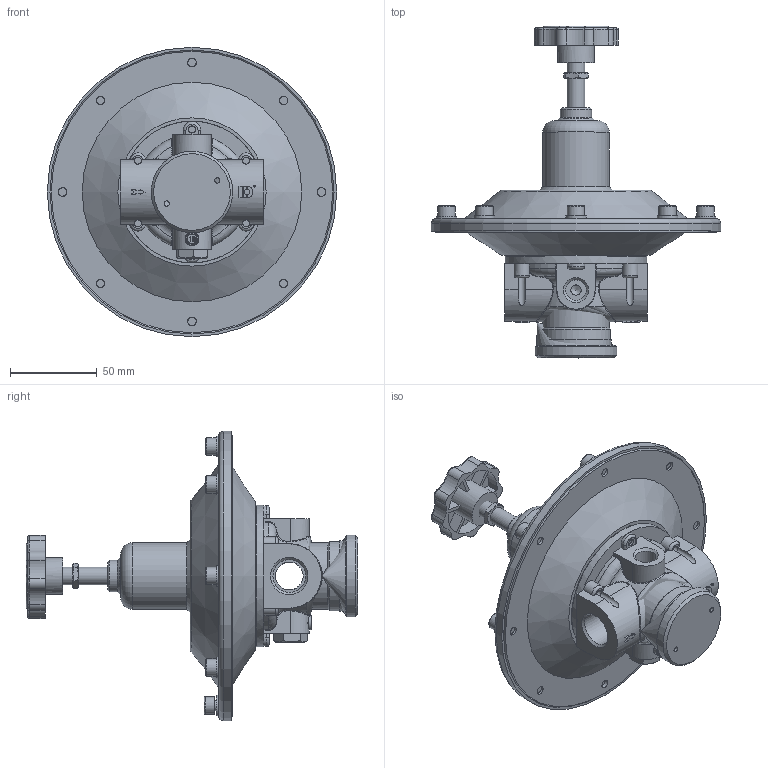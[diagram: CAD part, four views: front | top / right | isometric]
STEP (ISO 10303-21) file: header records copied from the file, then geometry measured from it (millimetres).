
FILE_DESCRIPTION(/* description */ (''),/* implementation_level */ '2;1');
FILE_NAME(/* name */ 'U:/AirCom-Produktdokumentation/Druckregler/R160/Zeichnungen/CAD-Aircom/3D/B-R160-04x_02.step',/* time_stamp */ '2022-02-14T13:35:57+01:00',/* author */ (''),/* organization */ (''),/* preprocessor_version */ 'ST-DEVELOPER v18.1',/* originating_system */ 'Autodesk Translation Framework v10.13.0.1454',/* authorisation */ '');
FILE_SCHEMA (('AUTOMOTIVE_DESIGN { 1 0 10303 214 3 1 1 }'));
Length unit declared in the file: millimetre
Products named in the file (33): C81080; P20701; P64041; C51009; C51009_Saldature; P64042; P21039; P38058; P34237; P23079; P23080; 0DC10405; OR 09082; OR 07103; P34098; OR 07027; OR 02014; OR 02014_1; OR 02014_2; OR 02014_3; OR 02014_4; OR 02014_5; C40004; P40017; P43128; P28080; 0DQ10400; 0DB10307; 0DB10307_1; 0DB10307_2; 0DB10307_3; 0DB10307_4; 0DB10307_5
Assembly tree (46 placements, depth 3):
  C81080
    P20701
    P64041
    C51009
      C51009_Saldature
      P64042
      P21039
      P38058
    P34237
    P23079
    P23080
    0DC10405  x8
    OR 09082
    OR 07103
    P34098
    OR 07027
    OR 02014
    OR 02014_1
    OR 02014_2
    OR 02014_3
    OR 02014_4
    OR 02014_5
    C40004
      P40017
      P43128
      P28080
    0DQ10400  x8
    0DB10307
    0DB10307_1
    0DB10307_2
    0DB10307_3
    0DB10307_4
    0DB10307_5
Bounding box: 166.5 x 191 x 166.5 mm (x, y, z)
Volume: 246458.4 mm3; surface area: 197099 mm2
Topology: 45 solids, 45 shells, 782 faces, 1928 edges, 1242 vertices
Faces by surface type: plane 307, cylinder 261, cone 91, torus 79, bspline 44
Full cylindrical faces by diameter (mm): 0.5 x1, 0.85 x12, 1 x1, 1.2 x1, 3 x2, 4.134 x7, 4.917 x8, 5 x6, 5.5 x7, 6 x10, 6.4 x8, 6.5 x24, 7 x1, 7.2 x1, 7.5 x6, 8 x1, 8.917 x1, 10 x10, 10.5 x1, 11.8 x2, 12 x8, 13.157 x1, 14.9 x1, 15 x1, 16 x2, 18 x2, 18.9 x2, 19.5 x1, 21 x1, 29.694 x1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
Entity records: 25138 total; most frequent: CARTESIAN_POINT 7867, DIRECTION 3470, ORIENTED_EDGE 3262, EDGE_CURVE 1631, AXIS2_PLACEMENT_3D 1452, VERTEX_POINT 1046, EDGE_LOOP 817, CIRCLE 713
